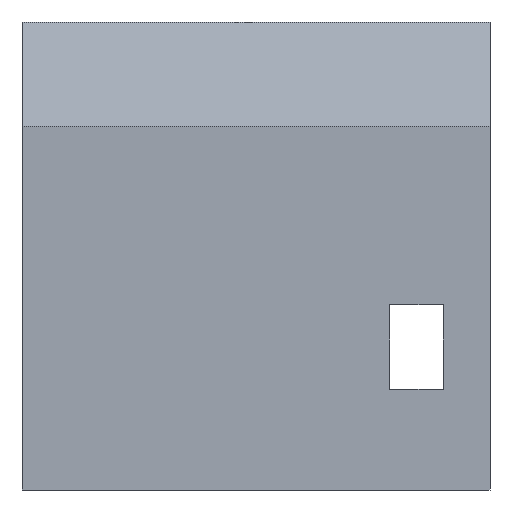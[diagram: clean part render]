
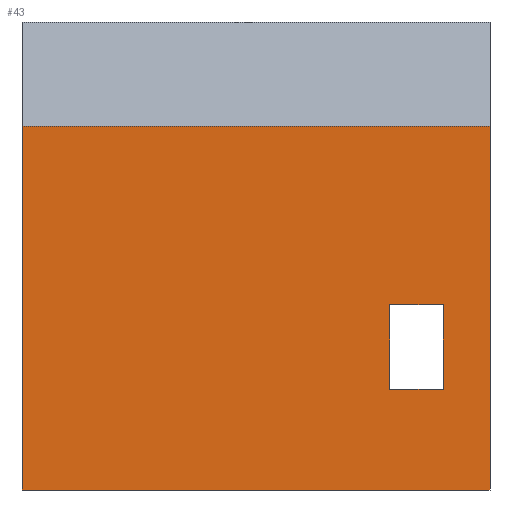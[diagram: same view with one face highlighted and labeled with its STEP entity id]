
A CAD part, left-side view. The second image highlights one B-rep face of the part: STEP entity #43.
In plain terms, the highlighted planar face has unit normal (-1, 0, 0).
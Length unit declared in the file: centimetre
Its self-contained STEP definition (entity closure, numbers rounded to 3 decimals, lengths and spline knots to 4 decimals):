
#28 = EDGE_CURVE ( 'NONE', #1065, #1180, #111, .T. ) ;
#30 = CARTESIAN_POINT ( 'NONE',  ( 0., 99.8255, 395.9361 ) ) ;
#43 = ADVANCED_FACE ( 'NONE', ( #1114, #914 ), #421, .F. ) ;
#54 = EDGE_CURVE ( 'NONE', #382, #778, #908, .T. ) ;
#111 = LINE ( 'NONE', #128, #1006 ) ;
#116 = CARTESIAN_POINT ( 'NONE',  ( 0., 214.3835, 395.9361 ) ) ;
#118 = DIRECTION ( 'NONE',  ( 0., 0., -1. ) ) ;
#121 = LINE ( 'NONE', #298, #1034 ) ;
#128 = CARTESIAN_POINT ( 'NONE',  ( 0., 99.8255, 214.9185 ) ) ;
#145 = ORIENTED_EDGE ( 'NONE', *, *, #765, .T. ) ;
#168 = CARTESIAN_POINT ( 'NONE',  ( 0., 214.3835, 214.9185 ) ) ;
#193 = EDGE_CURVE ( 'NONE', #401, #1143, #838, .T. ) ;
#199 = CARTESIAN_POINT ( 'NONE',  ( 0., 1000., 776.9488 ) ) ;
#205 = LINE ( 'NONE', #402, #299 ) ;
#215 = CARTESIAN_POINT ( 'NONE',  ( 0., 0., 776.9488 ) ) ;
#286 = EDGE_CURVE ( 'NONE', #1287, #654, #366, .T. ) ;
#288 = ORIENTED_EDGE ( 'NONE', *, *, #193, .T. ) ;
#298 = CARTESIAN_POINT ( 'NONE',  ( 0., 99.8255, 214.9185 ) ) ;
#299 = VECTOR ( 'NONE', #1109, 100. ) ;
#307 = ORIENTED_EDGE ( 'NONE', *, *, #28, .T. ) ;
#316 = DIRECTION ( 'NONE',  ( 0., 0., 1. ) ) ;
#325 = CARTESIAN_POINT ( 'NONE',  ( 0., 1000., 1000. ) ) ;
#366 = LINE ( 'NONE', #476, #938 ) ;
#382 = VERTEX_POINT ( 'NONE', #215 ) ;
#401 = VERTEX_POINT ( 'NONE', #116 ) ;
#402 = CARTESIAN_POINT ( 'NONE',  ( 0., 1000., 0. ) ) ;
#421 = PLANE ( 'NONE',  #1024 ) ;
#474 = CARTESIAN_POINT ( 'NONE',  ( 0., 99.8255, 395.9361 ) ) ;
#476 = CARTESIAN_POINT ( 'NONE',  ( 0., 1000., 1000. ) ) ;
#484 = EDGE_CURVE ( 'NONE', #1180, #401, #515, .T. ) ;
#496 = DIRECTION ( 'NONE',  ( 1., 0., 0. ) ) ;
#515 = LINE ( 'NONE', #997, #622 ) ;
#527 = VECTOR ( 'NONE', #712, 100. ) ;
#596 = CARTESIAN_POINT ( 'NONE',  ( 0., 1000., 776.9488 ) ) ;
#603 = DIRECTION ( 'NONE',  ( 0., 1., 0. ) ) ;
#609 = CARTESIAN_POINT ( 'NONE',  ( 0., 0., 1000. ) ) ;
#622 = VECTOR ( 'NONE', #316, 100. ) ;
#654 = VERTEX_POINT ( 'NONE', #1276 ) ;
#712 = DIRECTION ( 'NONE',  ( 0., 1., 0. ) ) ;
#737 = DIRECTION ( 'NONE',  ( 0., -1., 0. ) ) ;
#765 = EDGE_CURVE ( 'NONE', #382, #1287, #1098, .T. ) ;
#778 = VERTEX_POINT ( 'NONE', #898 ) ;
#808 = EDGE_CURVE ( 'NONE', #654, #778, #205, .T. ) ;
#829 = VECTOR ( 'NONE', #737, 100. ) ;
#833 = EDGE_CURVE ( 'NONE', #1143, #1065, #121, .T. ) ;
#838 = LINE ( 'NONE', #30, #829 ) ;
#853 = ORIENTED_EDGE ( 'NONE', *, *, #484, .T. ) ;
#873 = DIRECTION ( 'NONE',  ( 0., 0., -1. ) ) ;
#898 = CARTESIAN_POINT ( 'NONE',  ( 0., 0., 0. ) ) ;
#908 = LINE ( 'NONE', #609, #1219 ) ;
#914 = FACE_OUTER_BOUND ( 'NONE', #1267, .T. ) ;
#938 = VECTOR ( 'NONE', #873, 100. ) ;
#955 = ORIENTED_EDGE ( 'NONE', *, *, #833, .T. ) ;
#997 = CARTESIAN_POINT ( 'NONE',  ( 0., 214.3835, 214.9185 ) ) ;
#1006 = VECTOR ( 'NONE', #603, 100. ) ;
#1009 = DIRECTION ( 'NONE',  ( 0., 0., -1. ) ) ;
#1010 = ORIENTED_EDGE ( 'NONE', *, *, #286, .T. ) ;
#1024 = AXIS2_PLACEMENT_3D ( 'NONE', #325, #496, #1009 ) ;
#1034 = VECTOR ( 'NONE', #1296, 100. ) ;
#1064 = EDGE_LOOP ( 'NONE', ( #955, #307, #853, #288 ) ) ;
#1065 = VERTEX_POINT ( 'NONE', #1123 ) ;
#1098 = LINE ( 'NONE', #596, #527 ) ;
#1109 = DIRECTION ( 'NONE',  ( 0., -1., 0. ) ) ;
#1114 = FACE_BOUND ( 'NONE', #1064, .T. ) ;
#1123 = CARTESIAN_POINT ( 'NONE',  ( 0., 99.8255, 214.9185 ) ) ;
#1143 = VERTEX_POINT ( 'NONE', #474 ) ;
#1180 = VERTEX_POINT ( 'NONE', #168 ) ;
#1219 = VECTOR ( 'NONE', #118, 100. ) ;
#1252 = ORIENTED_EDGE ( 'NONE', *, *, #54, .F. ) ;
#1267 = EDGE_LOOP ( 'NONE', ( #1252, #145, #1010, #1278 ) ) ;
#1276 = CARTESIAN_POINT ( 'NONE',  ( 0., 1000., 0. ) ) ;
#1278 = ORIENTED_EDGE ( 'NONE', *, *, #808, .T. ) ;
#1287 = VERTEX_POINT ( 'NONE', #199 ) ;
#1296 = DIRECTION ( 'NONE',  ( 0., 0., -1. ) ) ;
